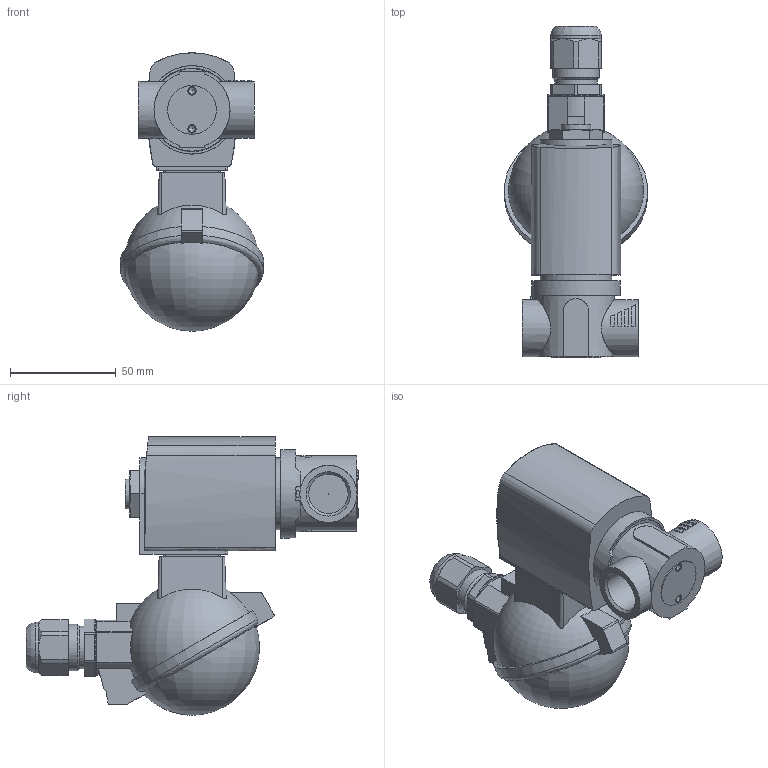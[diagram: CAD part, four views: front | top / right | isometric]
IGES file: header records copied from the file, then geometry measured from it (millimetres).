
Start section: Data from Parasolid IGES Translator 26.0.171, Copyright(c) 2006 Siemens PLM Software. All Rights Reserved.
Global section: file name: 6027-A-10-FKM___FKM-MS-G_1_2-42-024___UC.igs; native system: By Siemens PLM Incorporated; preprocessor: XPlus GENERIC/IGES 26.0.171; author: Noname; organization: Noname; date: 20240320.094759; units: millimetre
Bounding box: 67.86 x 157.1 x 131.7 mm (x, y, z)
Surface area: 51121.4 mm2 (no closed solid volume)
Topology: 0 solids, 0 shells, 221 faces, 1143 edges, 1109 vertices
Faces by surface type: extrusion 121, revolution 100
